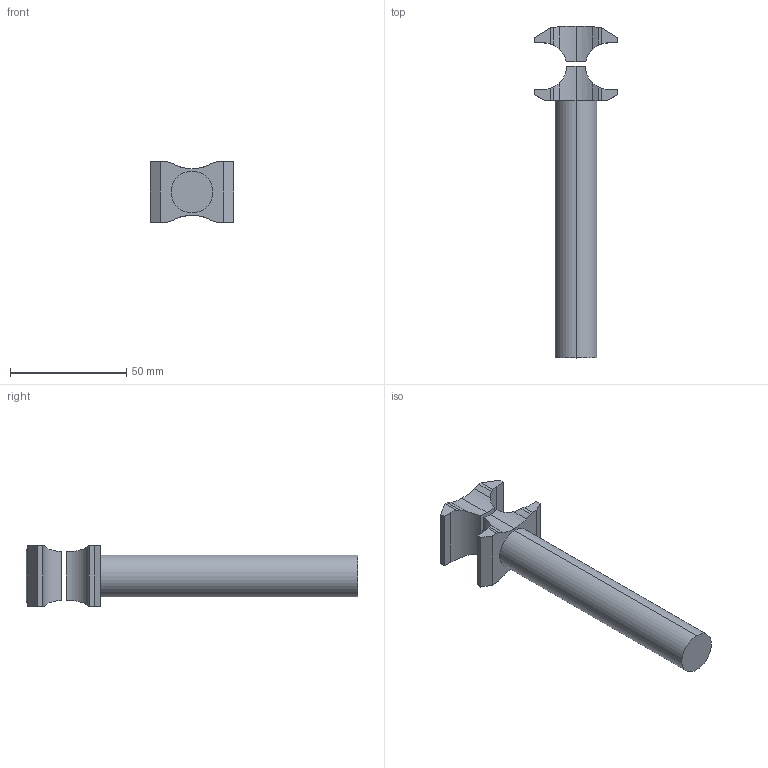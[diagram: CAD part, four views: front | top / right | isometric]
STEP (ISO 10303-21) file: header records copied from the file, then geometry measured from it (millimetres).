
FILE_DESCRIPTION (( 'STEP AP214' ), '1' );
FILE_NAME ('FGRC 18X110C.step', '2017-04-05T07:39:13', ( '' ), ( '' ), 'SwSTEP 2.0', 'SolidWorks 2015', '' );
FILE_SCHEMA (( 'AUTOMOTIVE_DESIGN' ));
Length unit declared in the file: millimetre
Products named in the file (1): FGRC 18X110C
Bounding box: 36 x 142.7 x 26 mm (x, y, z)
Volume: 41096 mm3; surface area: 12002.5 mm2
Topology: 2 solids, 2 shells, 58 faces, 156 edges, 104 vertices
Faces by surface type: plane 41, cylinder 17
Entity records: 2011 total; most frequent: CARTESIAN_POINT 570, ORIENTED_EDGE 312, DIRECTION 268, EDGE_CURVE 156, VERTEX_POINT 104, AXIS2_PLACEMENT_3D 90, VECTOR 88, LINE 88
